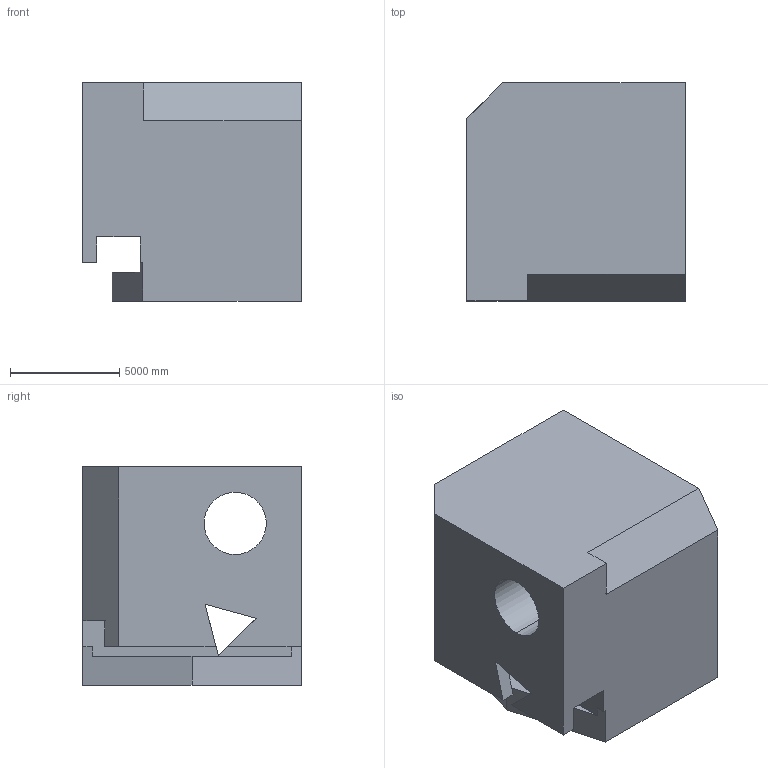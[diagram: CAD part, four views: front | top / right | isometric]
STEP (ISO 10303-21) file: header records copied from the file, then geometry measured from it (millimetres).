
FILE_DESCRIPTION (( 'STEP AP203' ), '1' );
FILE_NAME ('544.STEP', '2022-07-29T11:44:46', ( 'user' ), ( '' ), 'SwSTEP 2.0', 'SolidWorks 2021', '' );
FILE_SCHEMA (( 'CONFIG_CONTROL_DESIGN' ));
Length unit declared in the file: centimetre
Products named in the file (1): 544
Bounding box: 10000 x 10000 x 10000 mm (x, y, z)
Volume: 833616127655.3 mm3; surface area: 731993958.2 mm2
Topology: 1 solids, 1 shells, 26 faces, 75 edges, 50 vertices
Faces by surface type: plane 24, cylinder 2
Entity records: 928 total; most frequent: CARTESIAN_POINT 152, ORIENTED_EDGE 150, DIRECTION 133, EDGE_CURVE 75, LINE 71, VECTOR 71, VERTEX_POINT 50, AXIS2_PLACEMENT_3D 31
